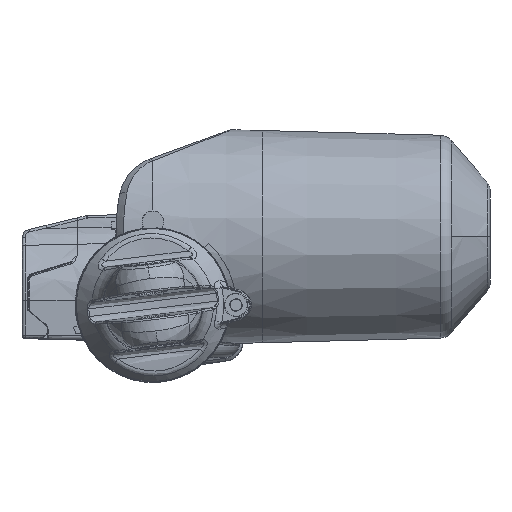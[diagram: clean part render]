
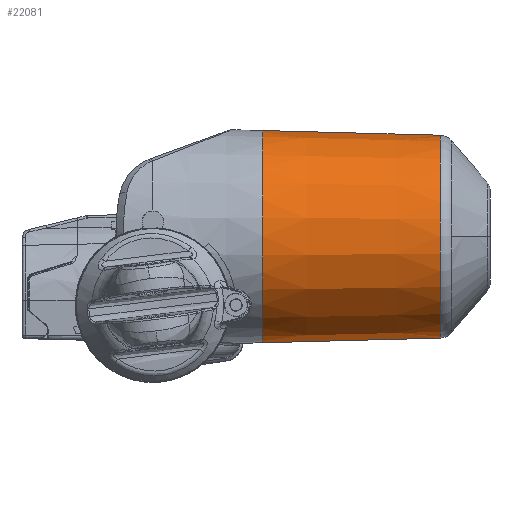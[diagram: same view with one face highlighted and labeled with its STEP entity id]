
A CAD part, top view. The second image highlights one B-rep face of the part: STEP entity #22081.
In plain terms, the highlighted conical face has half-angle 1.5 degrees and reference radius 33.669 mm.
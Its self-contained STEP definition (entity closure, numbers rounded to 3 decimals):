
#2478=DIRECTION('',(1.,0.026,0.));
#2479=VECTOR('',#2478,57.525);
#2480=CARTESIAN_POINT('',(35.7,-12.171,-22.245));
#2481=LINE('',#2480,#2479);
#2482=CARTESIAN_POINT('',(35.7,22.25,-22.245));
#2483=DIRECTION('',(-1.,0.,0.));
#2484=DIRECTION('',(0.,-1.,0.));
#2485=AXIS2_PLACEMENT_3D('',#2482,#2483,#2484);
#2487=CARTESIAN_POINT('',(93.205,22.25,-22.245));
#2488=DIRECTION('',(-1.,0.,0.));
#2489=DIRECTION('',(0.,-1.,0.));
#2490=AXIS2_PLACEMENT_3D('',#2487,#2488,#2489);
#2507=DIRECTION('',(1.,-0.026,0.));
#2508=VECTOR('',#2507,57.525);
#2509=CARTESIAN_POINT('',(35.7,56.671,-22.245));
#2510=LINE('',#2509,#2508);
#14831=CARTESIAN_POINT('',(35.7,-12.171,-22.245));
#14832=CARTESIAN_POINT('',(35.7,56.671,-22.245));
#14833=VERTEX_POINT('',#14831);
#14834=VERTEX_POINT('',#14832);
#14847=CARTESIAN_POINT('',(93.205,55.166,-22.245));
#14849=VERTEX_POINT('',#14847);
#14851=CARTESIAN_POINT('',(93.205,-10.666,-22.245));
#14852=VERTEX_POINT('',#14851);
#22067=CARTESIAN_POINT('',(64.453,22.25,-22.245));
#22068=DIRECTION('',(-1.,0.,0.));
#22069=DIRECTION('',(0.,-1.,0.));
#22070=AXIS2_PLACEMENT_3D('',#22067,#22068,#22069);
#22071=CONICAL_SURFACE('',#22070,33.669,1.5);
#22073=ORIENTED_EDGE('',*,*,#22072,.F.);
#22075=ORIENTED_EDGE('',*,*,#22074,.F.);
#22076=ORIENTED_EDGE('',*,*,#22055,.T.);
#22078=ORIENTED_EDGE('',*,*,#22077,.T.);
#22079=EDGE_LOOP('',(#22073,#22075,#22076,#22078));
#22080=FACE_OUTER_BOUND('',#22079,.F.);
#22081=ADVANCED_FACE('',(#22080),#22071,.T.);
#2486=CIRCLE('',#2485,34.421);
#2491=CIRCLE('',#2490,32.916);
#22055=EDGE_CURVE('',#14833,#14834,#2486,.T.);
#22072=EDGE_CURVE('',#14852,#14849,#2491,.T.);
#22074=EDGE_CURVE('',#14833,#14852,#2481,.T.);
#22077=EDGE_CURVE('',#14834,#14849,#2510,.T.);
